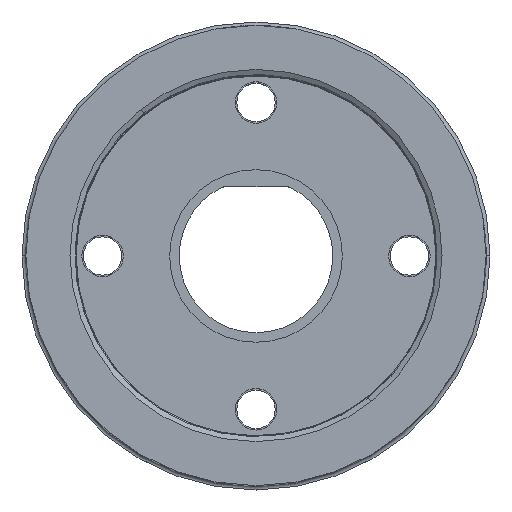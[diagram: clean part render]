
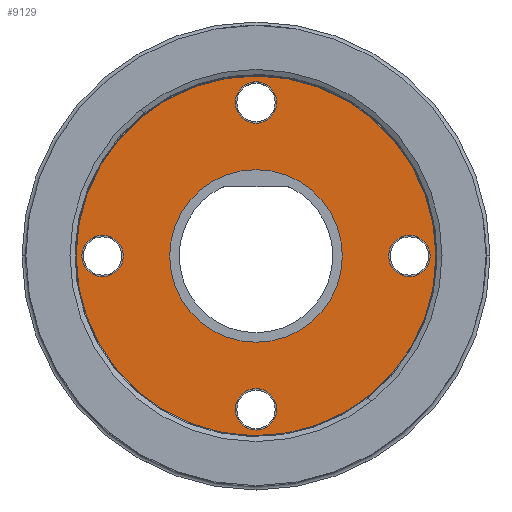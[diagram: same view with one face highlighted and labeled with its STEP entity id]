
A CAD part, top view. The second image highlights one B-rep face of the part: STEP entity #9129.
In plain terms, the highlighted planar face has unit normal (0, 0, 1).
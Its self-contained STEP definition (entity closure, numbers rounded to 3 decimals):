
#195 = EDGE_CURVE ( 'NONE', #11041, #1959, #3404, .T. ) ;
#396 = VERTEX_POINT ( 'NONE', #1781 ) ;
#812 = CARTESIAN_POINT ( 'NONE',  ( 0., 20., 3. ) ) ;
#1064 = EDGE_LOOP ( 'NONE', ( #12413, #19052 ) ) ;
#1154 = DIRECTION ( 'NONE',  ( 0., 0., 1. ) ) ;
#1349 = FACE_BOUND ( 'NONE', #16569, .T. ) ;
#1432 = CIRCLE ( 'NONE', #3994, 11.25 ) ;
#1433 = FACE_BOUND ( 'NONE', #14859, .T. ) ;
#1595 = DIRECTION ( 'NONE',  ( 1., 0., 0. ) ) ;
#1604 = CARTESIAN_POINT ( 'NONE',  ( -11.25, 0., 3. ) ) ;
#1607 = EDGE_CURVE ( 'NONE', #6062, #4467, #12428, .T. ) ;
#1653 = CARTESIAN_POINT ( 'NONE',  ( 0., 0., 3. ) ) ;
#1749 = CIRCLE ( 'NONE', #18042, 2.7 ) ;
#1781 = CARTESIAN_POINT ( 'NONE',  ( -17.3, 0., 3. ) ) ;
#1907 = ORIENTED_EDGE ( 'NONE', *, *, #13736, .T. ) ;
#1959 = VERTEX_POINT ( 'NONE', #12245 ) ;
#2040 = AXIS2_PLACEMENT_3D ( 'NONE', #8751, #1154, #19731 ) ;
#2082 = DIRECTION ( 'NONE',  ( 0., 0., -1. ) ) ;
#2087 = EDGE_LOOP ( 'NONE', ( #15822, #7572 ) ) ;
#2106 = CARTESIAN_POINT ( 'NONE',  ( 0., -20., 3. ) ) ;
#2197 = AXIS2_PLACEMENT_3D ( 'NONE', #19516, #15007, #7209 ) ;
#2229 = VERTEX_POINT ( 'NONE', #1604 ) ;
#2453 = ORIENTED_EDGE ( 'NONE', *, *, #19515, .T. ) ;
#2547 = AXIS2_PLACEMENT_3D ( 'NONE', #19742, #6035, #7638 ) ;
#2606 = AXIS2_PLACEMENT_3D ( 'NONE', #2989, #4579, #1595 ) ;
#2741 = CARTESIAN_POINT ( 'NONE',  ( 22.7, 0., 3. ) ) ;
#2743 = FACE_OUTER_BOUND ( 'NONE', #2087, .T. ) ;
#2784 = EDGE_CURVE ( 'NONE', #396, #16162, #18191, .T. ) ;
#2833 = ORIENTED_EDGE ( 'NONE', *, *, #195, .T. ) ;
#2847 = DIRECTION ( 'NONE',  ( 0., 0., 1. ) ) ;
#2989 = CARTESIAN_POINT ( 'NONE',  ( 20., 0., 3. ) ) ;
#3123 = CARTESIAN_POINT ( 'NONE',  ( -22.7, 0., 3. ) ) ;
#3128 = ORIENTED_EDGE ( 'NONE', *, *, #12081, .F. ) ;
#3404 = CIRCLE ( 'NONE', #17494, 2.7 ) ;
#3820 = AXIS2_PLACEMENT_3D ( 'NONE', #14173, #2082, #12780 ) ;
#3994 = AXIS2_PLACEMENT_3D ( 'NONE', #1653, #6228, #12331 ) ;
#4467 = VERTEX_POINT ( 'NONE', #2741 ) ;
#4579 = DIRECTION ( 'NONE',  ( 0., 0., -1. ) ) ;
#4631 = AXIS2_PLACEMENT_3D ( 'NONE', #15236, #2847, #10549 ) ;
#4944 = CARTESIAN_POINT ( 'NONE',  ( -2.7, -20., 3. ) ) ;
#5124 = EDGE_LOOP ( 'NONE', ( #1907, #2833 ) ) ;
#5948 = DIRECTION ( 'NONE',  ( 1., 0., 0. ) ) ;
#6035 = DIRECTION ( 'NONE',  ( 0., 0., -1. ) ) ;
#6062 = VERTEX_POINT ( 'NONE', #8759 ) ;
#6228 = DIRECTION ( 'NONE',  ( 0., 0., 1. ) ) ;
#6521 = ORIENTED_EDGE ( 'NONE', *, *, #9913, .T. ) ;
#6568 = ORIENTED_EDGE ( 'NONE', *, *, #1607, .T. ) ;
#6684 = CIRCLE ( 'NONE', #2197, 25.5 ) ;
#6714 = DIRECTION ( 'NONE',  ( 0., 0., -1. ) ) ;
#6880 = CIRCLE ( 'NONE', #2547, 2.7 ) ;
#7067 = CIRCLE ( 'NONE', #2606, 2.7 ) ;
#7107 = EDGE_CURVE ( 'NONE', #2229, #18126, #1432, .T. ) ;
#7209 = DIRECTION ( 'NONE',  ( 1., 0., 0. ) ) ;
#7438 = FACE_BOUND ( 'NONE', #1064, .T. ) ;
#7572 = ORIENTED_EDGE ( 'NONE', *, *, #12398, .T. ) ;
#7638 = DIRECTION ( 'NONE',  ( 1., 0., 0. ) ) ;
#8239 = VERTEX_POINT ( 'NONE', #4944 ) ;
#8434 = CIRCLE ( 'NONE', #4631, 11.25 ) ;
#8563 = VERTEX_POINT ( 'NONE', #15611 ) ;
#8711 = CARTESIAN_POINT ( 'NONE',  ( -20., 0., 3. ) ) ;
#8751 = CARTESIAN_POINT ( 'NONE',  ( 0., 0., 3. ) ) ;
#8759 = CARTESIAN_POINT ( 'NONE',  ( 17.3, 0., 3. ) ) ;
#8793 = EDGE_CURVE ( 'NONE', #8239, #10275, #17139, .T. ) ;
#8839 = PLANE ( 'NONE',  #2040 ) ;
#9129 = ADVANCED_FACE ( 'NONE', ( #14761, #1349, #16527, #7438, #1433, #2743 ), #8839, .T. ) ;
#9265 = CIRCLE ( 'NONE', #14053, 25.5 ) ;
#9913 = EDGE_CURVE ( 'NONE', #16162, #396, #1749, .T. ) ;
#10275 = VERTEX_POINT ( 'NONE', #17164 ) ;
#10408 = EDGE_LOOP ( 'NONE', ( #2453, #6568 ) ) ;
#10549 = DIRECTION ( 'NONE',  ( 1., 0., 0. ) ) ;
#11041 = VERTEX_POINT ( 'NONE', #12884 ) ;
#11553 = DIRECTION ( 'NONE',  ( 0., 0., -1. ) ) ;
#11899 = DIRECTION ( 'NONE',  ( 0., 0., -1. ) ) ;
#12081 = EDGE_CURVE ( 'NONE', #18126, #2229, #8434, .T. ) ;
#12127 = AXIS2_PLACEMENT_3D ( 'NONE', #14867, #19182, #19378 ) ;
#12199 = EDGE_CURVE ( 'NONE', #10275, #8239, #6880, .T. ) ;
#12245 = CARTESIAN_POINT ( 'NONE',  ( 2.7, 20., 3. ) ) ;
#12331 = DIRECTION ( 'NONE',  ( 1., 0., 0. ) ) ;
#12398 = EDGE_CURVE ( 'NONE', #14297, #8563, #6684, .T. ) ;
#12413 = ORIENTED_EDGE ( 'NONE', *, *, #12199, .T. ) ;
#12428 = CIRCLE ( 'NONE', #3820, 2.7 ) ;
#12780 = DIRECTION ( 'NONE',  ( 1., 0., 0. ) ) ;
#12844 = ORIENTED_EDGE ( 'NONE', *, *, #2784, .T. ) ;
#12884 = CARTESIAN_POINT ( 'NONE',  ( -2.7, 20., 3. ) ) ;
#12985 = CARTESIAN_POINT ( 'NONE',  ( 11.25, 0., 3. ) ) ;
#12991 = DIRECTION ( 'NONE',  ( 0., 0., -1. ) ) ;
#13736 = EDGE_CURVE ( 'NONE', #1959, #11041, #15953, .T. ) ;
#13930 = CARTESIAN_POINT ( 'NONE',  ( 0., 0., 3. ) ) ;
#13931 = AXIS2_PLACEMENT_3D ( 'NONE', #2106, #6714, #14410 ) ;
#14053 = AXIS2_PLACEMENT_3D ( 'NONE', #13930, #15160, #5948 ) ;
#14173 = CARTESIAN_POINT ( 'NONE',  ( 20., 0., 3. ) ) ;
#14297 = VERTEX_POINT ( 'NONE', #17780 ) ;
#14346 = AXIS2_PLACEMENT_3D ( 'NONE', #19154, #11553, #16051 ) ;
#14410 = DIRECTION ( 'NONE',  ( 1., 0., 0. ) ) ;
#14511 = EDGE_CURVE ( 'NONE', #8563, #14297, #9265, .T. ) ;
#14761 = FACE_BOUND ( 'NONE', #5124, .T. ) ;
#14859 = EDGE_LOOP ( 'NONE', ( #15085, #3128 ) ) ;
#14867 = CARTESIAN_POINT ( 'NONE',  ( -20., 0., 3. ) ) ;
#15007 = DIRECTION ( 'NONE',  ( 0., 0., 1. ) ) ;
#15085 = ORIENTED_EDGE ( 'NONE', *, *, #7107, .F. ) ;
#15160 = DIRECTION ( 'NONE',  ( 0., 0., 1. ) ) ;
#15236 = CARTESIAN_POINT ( 'NONE',  ( 0., 0., 3. ) ) ;
#15611 = CARTESIAN_POINT ( 'NONE',  ( -25.5, 0., 3. ) ) ;
#15822 = ORIENTED_EDGE ( 'NONE', *, *, #14511, .T. ) ;
#15953 = CIRCLE ( 'NONE', #14346, 2.7 ) ;
#16051 = DIRECTION ( 'NONE',  ( 1., 0., 0. ) ) ;
#16162 = VERTEX_POINT ( 'NONE', #3123 ) ;
#16527 = FACE_BOUND ( 'NONE', #10408, .T. ) ;
#16569 = EDGE_LOOP ( 'NONE', ( #12844, #6521 ) ) ;
#16584 = DIRECTION ( 'NONE',  ( 1., 0., 0. ) ) ;
#17139 = CIRCLE ( 'NONE', #13931, 2.7 ) ;
#17164 = CARTESIAN_POINT ( 'NONE',  ( 2.7, -20., 3. ) ) ;
#17306 = DIRECTION ( 'NONE',  ( 1., 0., 0. ) ) ;
#17494 = AXIS2_PLACEMENT_3D ( 'NONE', #812, #12991, #17306 ) ;
#17780 = CARTESIAN_POINT ( 'NONE',  ( 25.5, 0., 3. ) ) ;
#18042 = AXIS2_PLACEMENT_3D ( 'NONE', #8711, #11899, #16584 ) ;
#18126 = VERTEX_POINT ( 'NONE', #12985 ) ;
#18191 = CIRCLE ( 'NONE', #12127, 2.7 ) ;
#19052 = ORIENTED_EDGE ( 'NONE', *, *, #8793, .T. ) ;
#19154 = CARTESIAN_POINT ( 'NONE',  ( 0., 20., 3. ) ) ;
#19182 = DIRECTION ( 'NONE',  ( 0., 0., -1. ) ) ;
#19378 = DIRECTION ( 'NONE',  ( 1., 0., 0. ) ) ;
#19515 = EDGE_CURVE ( 'NONE', #4467, #6062, #7067, .T. ) ;
#19516 = CARTESIAN_POINT ( 'NONE',  ( 0., 0., 3. ) ) ;
#19731 = DIRECTION ( 'NONE',  ( 1., 0., 0. ) ) ;
#19742 = CARTESIAN_POINT ( 'NONE',  ( 0., -20., 3. ) ) ;
